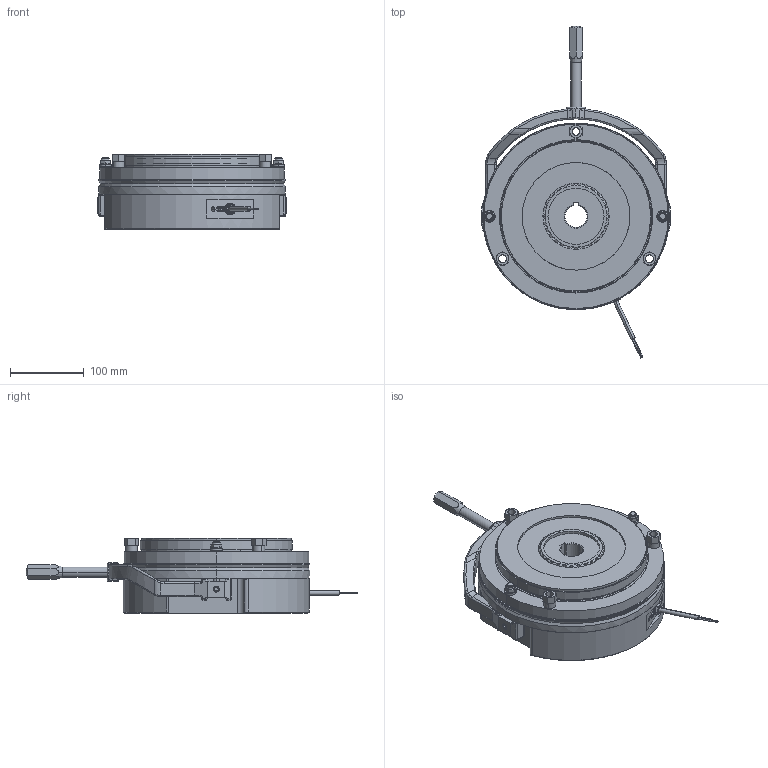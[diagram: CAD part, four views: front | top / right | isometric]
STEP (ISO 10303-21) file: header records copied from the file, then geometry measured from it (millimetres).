
FILE_DESCRIPTION (( 'STEP AP214' ), '1' );
FILE_NAME ('0938 mit HL.STEP', '2025-03-26T13:28:26', ( '' ), ( '' ), 'SwSTEP 2.0', 'SolidWorks 2022', '' );
FILE_SCHEMA (( 'AUTOMOTIVE_DESIGN' ));
Length unit declared in the file: millimetre
Products named in the file (7): 10068497_000; 10068492_000; 10068495_000; 10068494_000; 10068491_000; 10068493_000; 0938 mit HL
Assembly tree (8 placements, depth 2):
  0938 mit HL
    10068491_000
    10068497_000
    10068492_000
    10068494_000
    10068495_000  x3
    10068493_000
Bounding box: 256 x 449.91 x 101.7 mm (x, y, z)
Volume: 4121428.3 mm3; surface area: 559516.1 mm2
Topology: 34 solids, 34 shells, 1507 faces, 3602 edges, 2177 vertices
Faces by surface type: plane 557, cylinder 512, cone 232, bspline 156, torus 38, sphere 12
Entity records: 60011 total; most frequent: CARTESIAN_POINT 16077, ORIENTED_EDGE 6916, DIRECTION 6655, EDGE_CURVE 3458, AXIS2_PLACEMENT_3D 2547, VERTEX_POINT 2119, EDGE_LOOP 1589, LINE 1561
